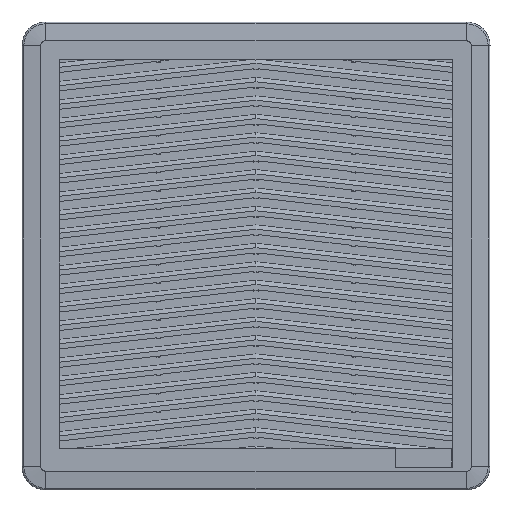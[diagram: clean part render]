
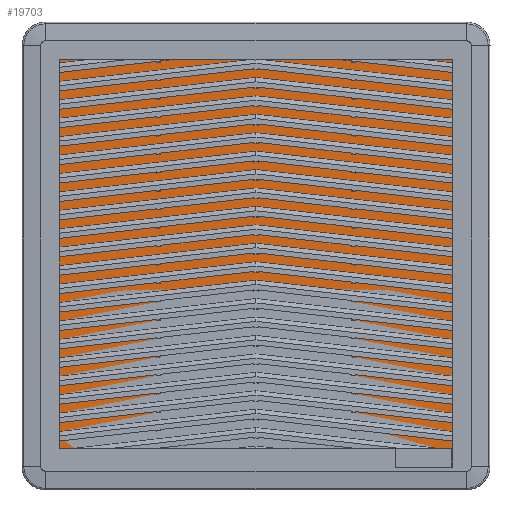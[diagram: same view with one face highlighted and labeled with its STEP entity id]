
A CAD part, front view. The second image highlights one B-rep face of the part: STEP entity #19703.
In plain terms, the highlighted planar face has unit normal (0, -1, 0) as drawn and (0, 0, 1) by its records, which use the part's own axes.
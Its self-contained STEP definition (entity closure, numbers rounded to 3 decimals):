
#652 = CARTESIAN_POINT ( 'NONE',  ( 0.04, -0.04, 6.009 ) ) ;
#958 = VERTEX_POINT ( 'NONE', #2719 ) ;
#1927 = ORIENTED_EDGE ( 'NONE', *, *, #15836, .F. ) ;
#1952 = CARTESIAN_POINT ( 'NONE',  ( -111.96, 124.96, 6.009 ) ) ;
#2372 = CARTESIAN_POINT ( 'NONE',  ( -111.96, -112.04, 6.009 ) ) ;
#2586 = AXIS2_PLACEMENT_3D ( 'NONE', #2372, #17170, #15419 ) ;
#2597 = DIRECTION ( 'NONE',  ( 0., -1., 0. ) ) ;
#2719 = CARTESIAN_POINT ( 'NONE',  ( 122.54, -112.04, 6.009 ) ) ;
#3562 = VECTOR ( 'NONE', #10857, 1000. ) ;
#3822 = PLANE ( 'NONE',  #14447 ) ;
#4028 = VERTEX_POINT ( 'NONE', #12936 ) ;
#4057 = FACE_OUTER_BOUND ( 'NONE', #16574, .T. ) ;
#4082 = VERTEX_POINT ( 'NONE', #18623 ) ;
#4413 = VERTEX_POINT ( 'NONE', #1952 ) ;
#4688 = EDGE_CURVE ( 'NONE', #4082, #14227, #17479, .T. ) ;
#5018 = DIRECTION ( 'NONE',  ( 1., 0., 0. ) ) ;
#5173 = ORIENTED_EDGE ( 'NONE', *, *, #21410, .F. ) ;
#5999 = CARTESIAN_POINT ( 'NONE',  ( -111.96, -122.54, 6.009 ) ) ;
#6140 = CARTESIAN_POINT ( 'NONE',  ( -122.46, -112.04, 6.009 ) ) ;
#6204 = DIRECTION ( 'NONE',  ( 0., 0., -1. ) ) ;
#6275 = VERTEX_POINT ( 'NONE', #13826 ) ;
#6933 = LINE ( 'NONE', #16495, #14010 ) ;
#7388 = ORIENTED_EDGE ( 'NONE', *, *, #16772, .F. ) ;
#7467 = LINE ( 'NONE', #6140, #3562 ) ;
#8945 = AXIS2_PLACEMENT_3D ( 'NONE', #15208, #14981, #11706 ) ;
#9001 = EDGE_CURVE ( 'NONE', #4028, #4413, #9175, .T. ) ;
#9175 = CIRCLE ( 'NONE', #13713, 10.5 ) ;
#9262 = EDGE_CURVE ( 'NONE', #14227, #958, #15737, .T. ) ;
#9607 = DIRECTION ( 'NONE',  ( 1., 0., 0. ) ) ;
#10468 = VERTEX_POINT ( 'NONE', #5999 ) ;
#10735 = DIRECTION ( 'NONE',  ( 1., 0., 0. ) ) ;
#10857 = DIRECTION ( 'NONE',  ( 0., 1., 0. ) ) ;
#10876 = LINE ( 'NONE', #20944, #18507 ) ;
#11028 = CARTESIAN_POINT ( 'NONE',  ( 122.54, -112.04, 6.009 ) ) ;
#11303 = VECTOR ( 'NONE', #2597, 1000. ) ;
#11505 = VERTEX_POINT ( 'NONE', #13787 ) ;
#11706 = DIRECTION ( 'NONE',  ( 1., 0., 0. ) ) ;
#11871 = EDGE_CURVE ( 'NONE', #10468, #11505, #16922, .T. ) ;
#11968 = ORIENTED_EDGE ( 'NONE', *, *, #9001, .F. ) ;
#12391 = ORIENTED_EDGE ( 'NONE', *, *, #11871, .F. ) ;
#12936 = CARTESIAN_POINT ( 'NONE',  ( -122.46, 114.46, 6.009 ) ) ;
#13713 = AXIS2_PLACEMENT_3D ( 'NONE', #15102, #14891, #5018 ) ;
#13787 = CARTESIAN_POINT ( 'NONE',  ( -122.46, -112.04, 6.009 ) ) ;
#13826 = CARTESIAN_POINT ( 'NONE',  ( 112.04, -122.54, 6.009 ) ) ;
#13954 = ORIENTED_EDGE ( 'NONE', *, *, #18378, .F. ) ;
#14010 = VECTOR ( 'NONE', #18244, 1000. ) ;
#14227 = VERTEX_POINT ( 'NONE', #14764 ) ;
#14447 = AXIS2_PLACEMENT_3D ( 'NONE', #652, #17205, #10735 ) ;
#14764 = CARTESIAN_POINT ( 'NONE',  ( 122.54, 114.46, 6.009 ) ) ;
#14891 = DIRECTION ( 'NONE',  ( 0., 0., -1. ) ) ;
#14981 = DIRECTION ( 'NONE',  ( 0., 0., -1. ) ) ;
#15102 = CARTESIAN_POINT ( 'NONE',  ( -111.96, 114.46, 6.009 ) ) ;
#15208 = CARTESIAN_POINT ( 'NONE',  ( 112.04, -112.04, 6.009 ) ) ;
#15419 = DIRECTION ( 'NONE',  ( 1., 0., 0. ) ) ;
#15737 = LINE ( 'NONE', #11028, #11303 ) ;
#15836 = EDGE_CURVE ( 'NONE', #4413, #4082, #10876, .T. ) ;
#16495 = CARTESIAN_POINT ( 'NONE',  ( 112.04, -122.54, 6.009 ) ) ;
#16574 = EDGE_LOOP ( 'NONE', ( #11968, #13954, #12391, #7388, #5173, #21185, #19574, #1927 ) ) ;
#16772 = EDGE_CURVE ( 'NONE', #6275, #10468, #6933, .T. ) ;
#16922 = CIRCLE ( 'NONE', #2586, 10.5 ) ;
#17170 = DIRECTION ( 'NONE',  ( 0., 0., -1. ) ) ;
#17205 = DIRECTION ( 'NONE',  ( 0., 0., 1. ) ) ;
#17479 = CIRCLE ( 'NONE', #20625, 10.5 ) ;
#18244 = DIRECTION ( 'NONE',  ( -1., 0., 0. ) ) ;
#18378 = EDGE_CURVE ( 'NONE', #11505, #4028, #7467, .T. ) ;
#18507 = VECTOR ( 'NONE', #19305, 1000. ) ;
#18623 = CARTESIAN_POINT ( 'NONE',  ( 112.04, 124.96, 6.009 ) ) ;
#19305 = DIRECTION ( 'NONE',  ( 1., 0., 0. ) ) ;
#19463 = CARTESIAN_POINT ( 'NONE',  ( 112.04, 114.46, 6.009 ) ) ;
#19574 = ORIENTED_EDGE ( 'NONE', *, *, #4688, .F. ) ;
#19703 = ADVANCED_FACE ( 'NONE', ( #4057 ), #3822, .T. ) ;
#20625 = AXIS2_PLACEMENT_3D ( 'NONE', #19463, #6204, #9607 ) ;
#20944 = CARTESIAN_POINT ( 'NONE',  ( -111.96, 124.96, 6.009 ) ) ;
#21185 = ORIENTED_EDGE ( 'NONE', *, *, #9262, .F. ) ;
#21200 = CIRCLE ( 'NONE', #8945, 10.5 ) ;
#21410 = EDGE_CURVE ( 'NONE', #958, #6275, #21200, .T. ) ;
